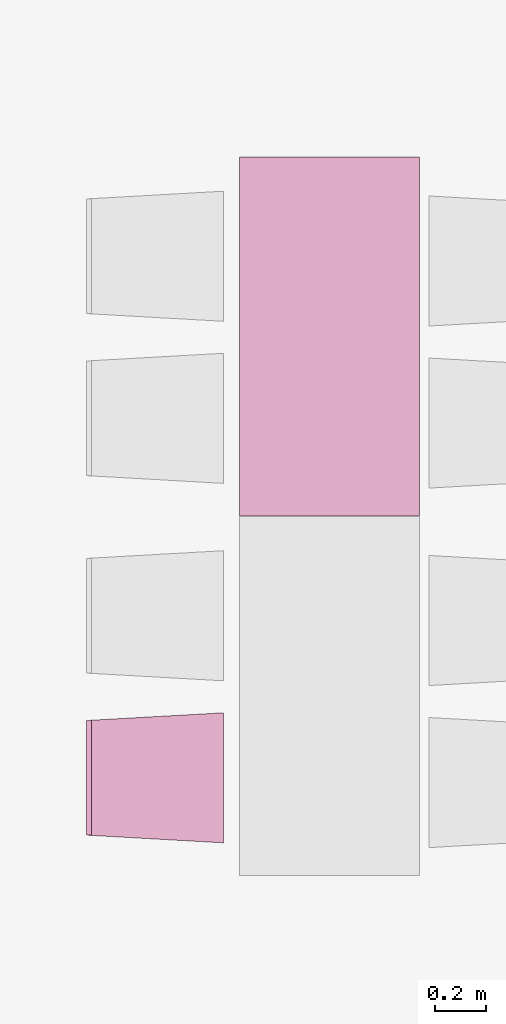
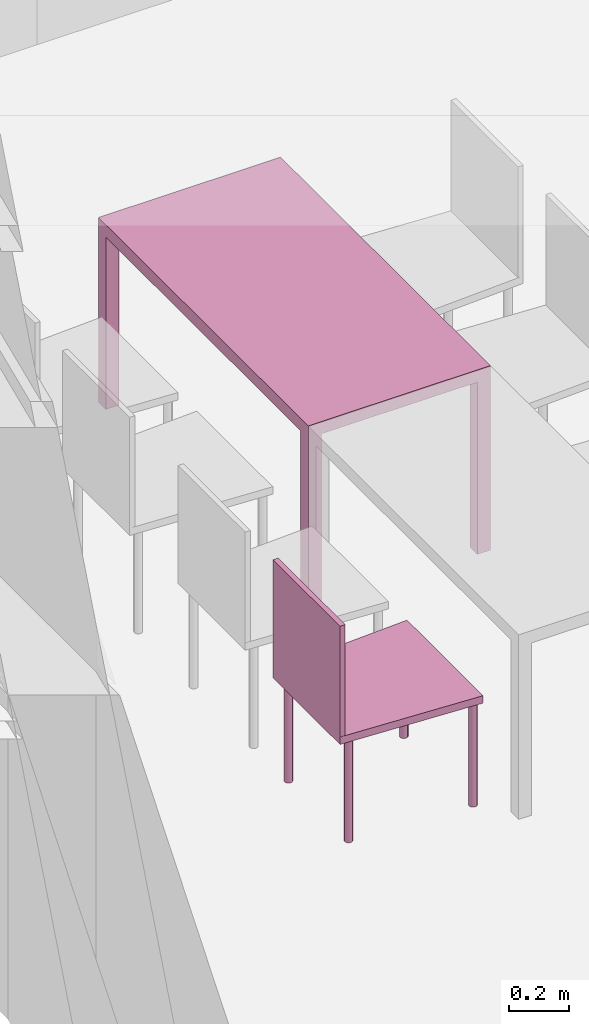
"""IFC4 building model written with IfcOpenShell, lengths in metres."""

import ifcopenshell
import ifcopenshell.guid

model = None  # the IFC model being written
_history = None  # IfcOwnerHistory: only IFC2X3 demands one
_inside = {}  # id of a spatial element -> (the spatial element, [elements in it])
_under = {}  # id of a project, library or spatial element -> (it, [spatial elements below it])
_declared = {}  # id of a project -> (the project, [libraries it declares])
_typed = {}  # id of a type object -> (the type object, [elements of that type])
_made_of = {}  # id of a material, layer set ... -> (it, [elements and type objects made of it])


def new_model(schema):
    """Start an empty IFC model of exactly this schema.

    Asked for "IFC4X3", IfcOpenShell would pick the latest addendum, in which some entities
    have other attributes; the version numbers below select the first issue.
    IFC2X3 requires an IfcOwnerHistory on every rooted entity: one is made here for all.
    """
    global model, _history
    if schema == "IFC4X3":
        model = ifcopenshell.file(schema_version=(4, 3, 0, 0))
    else:
        model = ifcopenshell.file(schema=schema)
    _inside.clear()
    _under.clear()
    _declared.clear()
    _typed.clear()
    _made_of.clear()
    _history = None
    if model.schema == "IFC2X3":
        org = make("IfcOrganization", Name="unknown")
        user = make(
            "IfcPersonAndOrganization",
            ThePerson=make("IfcPerson", FamilyName="unknown"),
            TheOrganization=org,
        )
        app = make(
            "IfcApplication",
            ApplicationDeveloper=org,
            Version="unknown",
            ApplicationFullName="unknown",
            ApplicationIdentifier="unknown",
        )
        _history = make(
            "IfcOwnerHistory",
            OwningUser=user,
            OwningApplication=app,
            ChangeAction="ADDED",
            CreationDate=0,
        )
    return model


def make(cls, **values):
    """One entity of the class cls with the attributes given. An attribute that is None is left unset."""
    return model.create_entity(
        cls, **{name: value for name, value in values.items() if value is not None}
    )


def entity(cls, *values):
    """Any entity or typed value of the class cls, its attributes in the order of the schema. None: left unset."""
    e = model.create_entity(cls)
    for i, value in enumerate(values):
        if value is not None:
            e[i] = value
    return e


def rooted(cls, **values):
    """An entity with a GlobalId (a new one), such as an element, a storey or a relation."""
    return make(cls, GlobalId=ifcopenshell.guid.new(), OwnerHistory=_history, **values)


def si_unit(unit_type, name, prefix=None):
    """IfcSIUnit, for example si_unit("LENGTHUNIT", "METRE", prefix="MILLI")."""
    return make("IfcSIUnit", UnitType=unit_type, Prefix=prefix, Name=name)


def converted_unit(unit_type, name, factor, base, dimensions=None, offset=None):
    """IfcConversionBasedUnit, such as the inch: factor (a typed value) times the base unit."""
    return make(
        "IfcConversionBasedUnit"
        if offset is None
        else "IfcConversionBasedUnitWithOffset",
        ConversionOffset=offset,
        Dimensions=None
        if dimensions is None
        else entity("IfcDimensionalExponents", *dimensions),
        UnitType=unit_type,
        Name=name,
        ConversionFactor=make(
            "IfcMeasureWithUnit", ValueComponent=factor, UnitComponent=base
        ),
    )


def derived_unit(unit_type, elements):
    """IfcDerivedUnit: a product of units, each with its exponent."""
    return make(
        "IfcDerivedUnit",
        Elements=[
            make("IfcDerivedUnitElement", Unit=unit, Exponent=power)
            for unit, power in elements
        ],
        UnitType=unit_type,
    )


def assignment(units):
    """IfcUnitAssignment: the units of a project."""
    return None if units is None else make("IfcUnitAssignment", Units=units)


def point(xyz):
    """IfcCartesianPoint."""
    return None if xyz is None else make("IfcCartesianPoint", Coordinates=xyz)


def direction(xyz):
    """IfcDirection."""
    return None if xyz is None else make("IfcDirection", DirectionRatios=xyz)


def frame(location, z_axis=None, x_axis=None):
    """IfcAxis2Placement3D, a coordinate frame: its origin and axes. An axis left out is left unset."""
    return make(
        "IfcAxis2Placement3D",
        Location=point(location),
        Axis=direction(z_axis),
        RefDirection=direction(x_axis),
    )


def origin():
    """The frame at (0, 0, 0) with its axes left unset."""
    return frame((0.0, 0.0, 0.0))


def place(relative_to, where):
    """IfcLocalPlacement: puts the frame where relative to a parent placement (None: the world)."""
    return make(
        "IfcLocalPlacement", PlacementRelTo=relative_to, RelativePlacement=where
    )


def context(
    kind, dimensions, precision=None, world=None, true_north=None, identifier=None
):
    """IfcGeometricRepresentationContext, for example the 3D "Model" context."""
    return make(
        "IfcGeometricRepresentationContext",
        ContextIdentifier=identifier,
        ContextType=kind,
        CoordinateSpaceDimension=dimensions,
        Precision=precision,
        WorldCoordinateSystem=world,
        TrueNorth=true_north,
    )


def subcontext(parent, identifier, kind, view, scale=None):
    """IfcGeometricRepresentationSubContext, for example "Body" below "Model"."""
    return make(
        "IfcGeometricRepresentationSubContext",
        ContextIdentifier=identifier,
        ContextType=kind,
        ParentContext=parent,
        TargetScale=scale,
        TargetView=view,
    )


def project(units=None, contexts=None):
    """IfcProject with its units and contexts."""
    return rooted(
        "IfcProject",
        Name="project",
        RepresentationContexts=contexts,
        UnitsInContext=assignment(units),
    )


def spatial(cls, under=None, at=None, **own):
    """A site, building, storey or space (cls), placed at a placement, below another one or the project."""
    s = rooted(cls, ObjectPlacement=at, **own)
    if under is not None:
        _under.setdefault(under.id(), (under, []))[1].append(s)
    return s


def faces_of(points, faces, orient=None, outer=None):
    """IfcFace entities. A face is a list of loops; a loop is a list of indices into points, from 0.

    orient and outer hold one flag for each loop. By default every Orientation is true, the
    first loop of a face is its IfcFaceOuterBound and the others are IfcFaceBound.
    """
    made = []
    for i, loops in enumerate(faces):
        bounds = []
        for j, loop in enumerate(loops):
            is_outer = j == 0 if outer is None else outer[i][j]
            bounds.append(
                make(
                    "IfcFaceOuterBound" if is_outer else "IfcFaceBound",
                    Bound=make("IfcPolyLoop", Polygon=[points[k] for k in loop]),
                    Orientation=True if orient is None else orient[i][j],
                )
            )
        made.append(make("IfcFace", Bounds=bounds))
    return made


def faceted_brep(points, faces, orient=None, outer=None, voids=None):
    """IfcFacetedBrep: a solid bounded by flat faces; with voids (closed shells), ...WithVoids."""
    shared = [point(p) for p in points]
    hull = make("IfcClosedShell", CfsFaces=faces_of(shared, faces, orient, outer))
    if voids is None:
        return make("IfcFacetedBrep", Outer=hull)
    return make(
        "IfcFacetedBrepWithVoids",
        Outer=hull,
        Voids=[
            make(cls, CfsFaces=faces_of(shared, fs, o, b)) for cls, fs, o, b in voids
        ],
    )


def shape(context_of_items, identifier, shape_type, items):
    """IfcShapeRepresentation: the items that make up one representation, for example the "Body"."""
    return make(
        "IfcShapeRepresentation",
        ContextOfItems=context_of_items,
        RepresentationIdentifier=identifier,
        RepresentationType=shape_type,
        Items=items,
    )


def made_of(thing, what):
    """Note that an element or type object is made of a material, layer set ...; save() writes the relation."""
    if what is not None:
        _made_of.setdefault(what.id(), (what, []))[1].append(thing)
    return thing


def element(
    cls,
    number,
    at=None,
    inside=None,
    cuts=None,
    type_object=None,
    material=None,
    context=None,
    identifier="Body",
    shape_type=None,
    held_by="IfcProductDefinitionShape",
    body=None,
    shapes=None,
    **own,
):
    """One element of the class cls, such as IfcWall. Its Tag is "e" and its number.

    at: its placement. inside: the storey or other place that contains it. cuts: it is an
    opening in that element (IfcRelVoidsElement). A single representation is given by context,
    identifier, shape_type and body (its items); several are given by shapes. held_by: the class
    of the entity that holds the representations. save() writes the other relations.
    """
    e = rooted(cls, Tag="e%d" % number, ObjectPlacement=at, **own)
    if body is not None:
        shapes = [shape(context, identifier, shape_type, body)]
    if shapes is not None:
        e.Representation = make(held_by, Representations=shapes)
    if inside is not None:
        _inside.setdefault(inside.id(), (inside, []))[1].append(e)
    if cuts is not None:
        rooted(
            "IfcRelVoidsElement", RelatingBuildingElement=cuts, RelatedOpeningElement=e
        )
    if type_object is not None:
        _typed.setdefault(type_object.id(), (type_object, []))[1].append(e)
    return made_of(e, material)


def aggregate(whole, parts):
    """IfcRelAggregates: a whole, such as a stair, and the parts it consists of."""
    return rooted("IfcRelAggregates", RelatingObject=whole, RelatedObjects=parts)


def save(model, path):
    """Write the relations noted so far, then the file.

    IfcRelAggregates (storeys below a building ...), IfcRelContainedInSpatialStructure (elements
    in a storey), IfcRelDefinesByType, IfcRelAssociatesMaterial and IfcRelDeclares: one each for
    every whole, place, type object, material and project.
    """
    for whole, parts in _under.values():
        aggregate(whole, parts)
    for where, things in _inside.values():
        rooted(
            "IfcRelContainedInSpatialStructure",
            RelatedElements=things,
            RelatingStructure=where,
        )
    for kind, things in _typed.values():
        rooted("IfcRelDefinesByType", RelatedObjects=things, RelatingType=kind)
    for what, things in _made_of.values():
        rooted("IfcRelAssociatesMaterial", RelatedObjects=things, RelatingMaterial=what)
    for by, libraries in _declared.values():
        rooted("IfcRelDeclares", RelatingContext=by, RelatedDefinitions=libraries)
    model.write(path)


model = new_model("IFC4")

# Units and contexts
model_context = context("Model", 3, precision=1e-05, world=origin())
body_context = subcontext(model_context, "Body", "Model", "MODEL_VIEW")
ifc_project = project(units=[si_unit("LENGTHUNIT", "METRE"), si_unit("AREAUNIT", "SQUARE_METRE"), si_unit("VOLUMEUNIT", "CUBIC_METRE"), si_unit("MASSUNIT", "GRAM", prefix="KILO"), converted_unit("PLANEANGLEUNIT", "DEGREE", entity("IfcPlaneAngleMeasure", 0.0174532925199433), si_unit("PLANEANGLEUNIT", "RADIAN"), dimensions=[0, 0, 0, 0, 0, 0, 0]), derived_unit("THERMALTRANSMITTANCEUNIT", [(si_unit("POWERUNIT", "WATT"), 1), (si_unit("THERMODYNAMICTEMPERATUREUNIT", "KELVIN"), -1), (si_unit("LENGTHUNIT", "METRE"), -2)]), derived_unit("VOLUMETRICFLOWRATEUNIT", [(si_unit("LENGTHUNIT", "METRE"), 3), (converted_unit("TIMEUNIT", "hour", entity("IfcTimeMeasure", 3600.0), si_unit("TIMEUNIT", "SECOND"), dimensions=[0, 0, 1, 0, 0, 0, 0]), -1), (si_unit("LENGTHUNIT", "METRE"), -1)])], contexts=[model_context])

# Building, storeys
building_placement = place(None, origin())
building = spatial("IfcBuilding", under=ifc_project, at=building_placement, Name="HABITATGE PLURIFAMILIAR", CompositionType="ELEMENT")
storey_1_placement = place(building_placement, frame((0.0, 0.0, 3.35)))
storey_1 = spatial("IfcBuildingStorey", under=building, at=storey_1_placement, Name="PLANTA  ALTELL", CompositionType="ELEMENT", Elevation=3.35)
storey_2_placement = place(storey_1_placement, origin())
storey_2 = spatial("IfcBuildingStorey", under=storey_1, at=storey_2_placement, Name="NOU", CompositionType="PARTIAL")

# Furniture
furniture_1_placement = place(storey_2_placement, frame((400.801918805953, 20.1226455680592, 0.05)))
element("IfcFurniture", 1, at=furniture_1_placement, inside=storey_2, Name="Taula 140X80_PA", context=body_context, shape_type="Brep", body=[
    faceted_brep([(0.7, 0.0500000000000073, 0.0), (0.65, 0.0500000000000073, 0.0), (0.65, 0.0, 0.0), (0.7, 0.0, 0.0), (0.65, 0.0500000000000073, 0.7), (0.7, 0.0500000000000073, 0.7), (0.7, 0.0, 0.7), (0.65, 0.0, 0.7)], [[[0, 1, 2, 3]], [[4, 5, 6, 7]], [[1, 0, 5, 4]], [[2, 1, 4, 7]], [[3, 2, 7, 6]], [[0, 3, 6, 5]]], orient=[[False], [False], [False], [False], [False], [False]]),
    faceted_brep([(0.7, 1.39694592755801, 0.0), (0.65, 1.39694592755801, 0.0), (0.65, 1.34694592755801, 0.0), (0.7, 1.34694592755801, 0.0), (0.65, 1.39694592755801, 0.7), (0.7, 1.39694592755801, 0.7), (0.7, 1.34694592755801, 0.7), (0.65, 1.34694592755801, 0.7)], [[[0, 1, 2, 3]], [[4, 5, 6, 7]], [[1, 0, 5, 4]], [[2, 1, 4, 7]], [[3, 2, 7, 6]], [[0, 3, 6, 5]]], orient=[[False], [False], [False], [False], [False], [False]]),
    faceted_brep([(0.7, 1.396945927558, 0.7), (0.0, 1.396945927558, 0.7), (0.0, 0.0, 0.7), (0.7, 0.0, 0.7), (0.0, 1.396945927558, 0.75), (0.7, 1.396945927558, 0.75), (0.7, 0.0, 0.75), (0.0, 0.0, 0.75)], [[[0, 1, 2, 3]], [[4, 5, 6, 7]], [[1, 0, 5, 4]], [[2, 1, 4, 7]], [[3, 2, 7, 6]], [[0, 3, 6, 5]]], orient=[[False], [False], [False], [False], [False], [False]]),
    faceted_brep([(0.05, 0.05, 0.0), (0.0, 0.05, 0.0), (0.0, 0.0, 0.0), (0.05, 0.0, 0.0), (0.0, 0.05, 0.7), (0.05, 0.05, 0.7), (0.05, 0.0, 0.7), (0.0, 0.0, 0.7)], [[[0, 1, 2, 3]], [[4, 5, 6, 7]], [[1, 0, 5, 4]], [[2, 1, 4, 7]], [[3, 2, 7, 6]], [[0, 3, 6, 5]]], orient=[[False], [False], [False], [False], [False], [False]]),
    faceted_brep([(0.05, 1.396945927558, 0.0), (0.0, 1.396945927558, 0.0), (0.0, 1.346945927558, 0.0), (0.05, 1.346945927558, 0.0), (0.0, 1.396945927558, 0.7), (0.05, 1.396945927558, 0.7), (0.05, 1.346945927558, 0.7), (0.0, 1.346945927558, 0.7)], [[[0, 1, 2, 3]], [[4, 5, 6, 7]], [[1, 0, 5, 4]], [[2, 1, 4, 7]], [[3, 2, 7, 6]], [[0, 3, 6, 5]]], orient=[[False], [False], [False], [False], [False], [False]]),
])
furniture_2_placement = place(storey_2_placement, frame((400.206206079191, 18.8492329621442, 0.0499839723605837)))
element("IfcFurniture", 2, at=furniture_2_placement, inside=storey_2, Name="Cadira confident_PA", context=body_context, shape_type="Brep", body=[
    faceted_brep([(0.507575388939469, 0.0391636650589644, 0.0), (0.504980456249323, 0.0389479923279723, 0.0), (0.502462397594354, 0.0382849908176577, 0.0), (0.500097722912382, 0.0371948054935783, 0.0), (0.497958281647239, 0.0357105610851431, 0.0), (0.496109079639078, 0.0338773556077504, 0.0), (0.494606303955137, 0.0317508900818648, 0.0), (0.493495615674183, 0.0293957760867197, 0.0), (0.492810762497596, 0.0268835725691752, 0.0), (0.492572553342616, 0.0242906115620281, 0.0), (0.492788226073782, 0.0216956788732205, 0.0), (0.493451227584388, 0.019177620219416, 0.0), (0.494541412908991, 0.0168129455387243, 0.0), (0.496025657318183, 0.0146735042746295, 0.0), (0.497858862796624, 0.0128243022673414, 0.0), (0.499985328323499, 0.0113215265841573, 0.0), (0.502340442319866, 0.0102108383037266, 0.0), (0.504852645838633, 0.00952598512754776, 0.0), (0.507445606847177, 0.00928777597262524, 0.0), (0.510040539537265, 0.00950344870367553, 0.0), (0.512558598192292, 0.010166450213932, 0.0), (0.514923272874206, 0.0112566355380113, 0.0), (0.517062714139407, 0.0127408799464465, 0.0), (0.518911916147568, 0.0145740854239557, 0.0), (0.520414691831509, 0.0167005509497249, 0.0), (0.521525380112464, 0.0190556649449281, 0.0), (0.52221023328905, 0.0215678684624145, 0.0), (0.522448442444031, 0.0241608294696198, 0.0), (0.522232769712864, 0.0267557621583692, 0.0), (0.521569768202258, 0.0292738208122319, 0.0), (0.520479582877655, 0.0316384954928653, 0.0), (0.518995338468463, 0.0337779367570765, 0.0), (0.517162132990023, 0.0356271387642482, 0.0), (0.515035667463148, 0.0371299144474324, 0.0), (0.51268055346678, 0.038240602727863, 0.0), (0.510168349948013, 0.0389254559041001, 0.0), (0.507575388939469, 0.0391636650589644, 0.448281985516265), (0.510168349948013, 0.0389254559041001, 0.448281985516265), (0.51268055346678, 0.038240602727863, 0.448281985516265), (0.515035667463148, 0.0371299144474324, 0.448281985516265), (0.517162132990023, 0.0356271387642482, 0.448281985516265), (0.518995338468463, 0.0337779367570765, 0.448281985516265), (0.520479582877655, 0.0316384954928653, 0.448281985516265), (0.521569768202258, 0.0292738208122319, 0.448281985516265), (0.522232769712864, 0.0267557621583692, 0.448281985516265), (0.522448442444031, 0.0241608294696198, 0.448281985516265), (0.52221023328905, 0.0215678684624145, 0.448281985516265), (0.521525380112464, 0.0190556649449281, 0.448281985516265), (0.520414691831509, 0.0167005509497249, 0.448281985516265), (0.518911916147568, 0.0145740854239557, 0.448281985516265), (0.517062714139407, 0.0127408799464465, 0.448281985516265), (0.514923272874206, 0.0112566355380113, 0.448281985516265), (0.512558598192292, 0.010166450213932, 0.448281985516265), (0.510040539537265, 0.00950344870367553, 0.448281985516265), (0.507445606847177, 0.00928777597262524, 0.448281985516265), (0.504852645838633, 0.00952598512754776, 0.448281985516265), (0.502340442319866, 0.0102108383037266, 0.448281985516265), (0.499985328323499, 0.0113215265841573, 0.448281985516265), (0.497858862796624, 0.0128243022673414, 0.448281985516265), (0.496025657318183, 0.0146735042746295, 0.448281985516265), (0.494541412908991, 0.0168129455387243, 0.448281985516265), (0.493451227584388, 0.019177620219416, 0.448281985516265), (0.492788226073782, 0.0216956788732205, 0.448281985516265), (0.492572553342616, 0.0242906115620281, 0.448281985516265), (0.492810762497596, 0.0268835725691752, 0.448281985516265), (0.493495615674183, 0.0293957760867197, 0.448281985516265), (0.494606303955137, 0.0317508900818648, 0.448281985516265), (0.496109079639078, 0.0338773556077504, 0.448281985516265), (0.497958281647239, 0.0357105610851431, 0.448281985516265), (0.500097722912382, 0.0371948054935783, 0.448281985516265), (0.502462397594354, 0.0382849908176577, 0.448281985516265), (0.504980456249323, 0.0389479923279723, 0.448281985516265)], [[[0, 1, 2, 3, 4, 5, 6, 7, 8, 9, 10, 11, 12, 13, 14, 15, 16, 17, 18, 19, 20, 21, 22, 23, 24, 25, 26, 27, 28, 29, 30, 31, 32, 33, 34, 35]], [[36, 37, 38, 39, 40, 41, 42, 43, 44, 45, 46, 47, 48, 49, 50, 51, 52, 53, 54, 55, 56, 57, 58, 59, 60, 61, 62, 63, 64, 65, 66, 67, 68, 69, 70, 71]], [[1, 0, 36, 71]], [[2, 1, 71, 70]], [[3, 2, 70, 69]], [[4, 3, 69, 68]], [[5, 4, 68, 67]], [[6, 5, 67, 66]], [[7, 6, 66, 65]], [[8, 7, 65, 64]], [[9, 8, 64, 63]], [[10, 9, 63, 62]], [[11, 10, 62, 61]], [[12, 11, 61, 60]], [[13, 12, 60, 59]], [[14, 13, 59, 58]], [[15, 14, 58, 57]], [[16, 15, 57, 56]], [[17, 16, 56, 55]], [[18, 17, 55, 54]], [[19, 18, 54, 53]], [[20, 19, 53, 52]], [[21, 20, 52, 51]], [[22, 21, 51, 50]], [[23, 22, 50, 49]], [[24, 23, 49, 48]], [[25, 24, 48, 47]], [[26, 25, 47, 46]], [[27, 26, 46, 45]], [[28, 27, 45, 44]], [[29, 28, 44, 43]], [[30, 29, 43, 42]], [[31, 30, 42, 41]], [[32, 31, 41, 40]], [[33, 32, 40, 39]], [[34, 33, 39, 38]], [[35, 34, 38, 37]], [[0, 35, 37, 36]]], orient=[[False], [False], [False], [False], [False], [False], [False], [False], [False], [False], [False], [False], [False], [False], [False], [False], [False], [False], [False], [False], [False], [False], [False], [False], [False], [False], [False], [False], [False], [False], [False], [False], [False], [False], [False], [False], [False], [False]]),
    faceted_brep([(0.0451683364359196, 0.0668016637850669, 0.0), (0.0425734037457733, 0.0665859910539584, 0.0), (0.0400553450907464, 0.065922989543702, 0.0), (0.0376906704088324, 0.0648328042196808, 0.0), (0.0355512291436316, 0.0633485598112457, 0.0), (0.0337020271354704, 0.0615153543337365, 0.0), (0.0321992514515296, 0.0593888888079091, 0.0), (0.0310885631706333, 0.057033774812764, 0.0), (0.0304037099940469, 0.0545215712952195, 0.0), (0.030165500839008, 0.0519286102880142, 0.0), (0.0303811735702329, 0.0493336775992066, 0.0), (0.0310441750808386, 0.0468156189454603, 0.0), (0.0321343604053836, 0.0444509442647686, 0.0), (0.0336186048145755, 0.0423115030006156, 0.0), (0.035451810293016, 0.0404623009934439, 0.0), (0.0375782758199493, 0.0389595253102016, 0.0), (0.0399333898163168, 0.0378488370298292, 0.0), (0.0424455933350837, 0.0371639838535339, 0.0), (0.0450385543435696, 0.0369257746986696, 0.0), (0.0476334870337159, 0.0371414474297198, 0.0), (0.0501515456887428, 0.0378044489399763, 0.0), (0.0525162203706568, 0.0388946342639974, 0.0), (0.0546556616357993, 0.0403788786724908, 0.0), (0.0565048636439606, 0.0422120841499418, 0.0), (0.0580076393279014, 0.0443385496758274, 0.0), (0.0591183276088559, 0.0466936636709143, 0.0), (0.0598031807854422, 0.0492058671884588, 0.0), (0.060041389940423, 0.0517988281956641, 0.0), (0.0598257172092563, 0.0543937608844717, 0.0), (0.0591627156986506, 0.056911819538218, 0.0), (0.0580725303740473, 0.0592764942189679, 0.0), (0.0565882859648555, 0.0614159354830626, 0.0), (0.054755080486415, 0.0632651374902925, 0.0), (0.0526286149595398, 0.0647679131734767, 0.0), (0.0502735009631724, 0.0658786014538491, 0.0), (0.0477612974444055, 0.0665634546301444, 0.0), (0.0451683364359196, 0.0668016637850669, 0.448281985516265), (0.0477612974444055, 0.0665634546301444, 0.448281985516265), (0.0502735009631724, 0.0658786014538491, 0.448281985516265), (0.0526286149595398, 0.0647679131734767, 0.448281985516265), (0.054755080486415, 0.0632651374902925, 0.448281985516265), (0.0565882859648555, 0.0614159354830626, 0.448281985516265), (0.0580725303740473, 0.0592764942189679, 0.448281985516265), (0.0591627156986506, 0.056911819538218, 0.448281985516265), (0.0598257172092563, 0.0543937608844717, 0.448281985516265), (0.060041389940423, 0.0517988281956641, 0.448281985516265), (0.0598031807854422, 0.0492058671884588, 0.448281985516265), (0.0591183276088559, 0.0466936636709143, 0.448281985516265), (0.0580076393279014, 0.0443385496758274, 0.448281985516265), (0.0565048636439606, 0.0422120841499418, 0.448281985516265), (0.0546556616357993, 0.0403788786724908, 0.448281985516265), (0.0525162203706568, 0.0388946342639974, 0.448281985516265), (0.0501515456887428, 0.0378044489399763, 0.448281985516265), (0.0476334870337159, 0.0371414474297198, 0.448281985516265), (0.0450385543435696, 0.0369257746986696, 0.448281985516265), (0.0424455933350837, 0.0371639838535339, 0.448281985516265), (0.0399333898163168, 0.0378488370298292, 0.448281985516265), (0.0375782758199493, 0.0389595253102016, 0.448281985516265), (0.035451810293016, 0.0404623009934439, 0.448281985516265), (0.0336186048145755, 0.0423115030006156, 0.448281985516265), (0.0321343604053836, 0.0444509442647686, 0.448281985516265), (0.0310441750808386, 0.0468156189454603, 0.448281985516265), (0.0303811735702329, 0.0493336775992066, 0.448281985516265), (0.030165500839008, 0.0519286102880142, 0.448281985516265), (0.0304037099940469, 0.0545215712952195, 0.448281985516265), (0.0310885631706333, 0.057033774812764, 0.448281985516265), (0.0321992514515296, 0.0593888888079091, 0.448281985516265), (0.0337020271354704, 0.0615153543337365, 0.448281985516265), (0.0355512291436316, 0.0633485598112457, 0.448281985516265), (0.0376906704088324, 0.0648328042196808, 0.448281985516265), (0.0400553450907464, 0.065922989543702, 0.448281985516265), (0.0425734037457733, 0.0665859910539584, 0.448281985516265)], [[[0, 1, 2, 3, 4, 5, 6, 7, 8, 9, 10, 11, 12, 13, 14, 15, 16, 17, 18, 19, 20, 21, 22, 23, 24, 25, 26, 27, 28, 29, 30, 31, 32, 33, 34, 35]], [[36, 37, 38, 39, 40, 41, 42, 43, 44, 45, 46, 47, 48, 49, 50, 51, 52, 53, 54, 55, 56, 57, 58, 59, 60, 61, 62, 63, 64, 65, 66, 67, 68, 69, 70, 71]], [[1, 0, 36, 71]], [[2, 1, 71, 70]], [[3, 2, 70, 69]], [[4, 3, 69, 68]], [[5, 4, 68, 67]], [[6, 5, 67, 66]], [[7, 6, 66, 65]], [[8, 7, 65, 64]], [[9, 8, 64, 63]], [[10, 9, 63, 62]], [[11, 10, 62, 61]], [[12, 11, 61, 60]], [[13, 12, 60, 59]], [[14, 13, 59, 58]], [[15, 14, 58, 57]], [[16, 15, 57, 56]], [[17, 16, 56, 55]], [[18, 17, 55, 54]], [[19, 18, 54, 53]], [[20, 19, 53, 52]], [[21, 20, 52, 51]], [[22, 21, 51, 50]], [[23, 22, 50, 49]], [[24, 23, 49, 48]], [[25, 24, 48, 47]], [[26, 25, 47, 46]], [[27, 26, 46, 45]], [[28, 27, 45, 44]], [[29, 28, 44, 43]], [[30, 29, 43, 42]], [[31, 30, 42, 41]], [[32, 31, 41, 40]], [[33, 32, 40, 39]], [[34, 33, 39, 38]], [[35, 34, 38, 37]], [[0, 35, 37, 36]]], orient=[[False], [False], [False], [False], [False], [False], [False], [False], [False], [False], [False], [False], [False], [False], [False], [False], [False], [False], [False], [False], [False], [False], [False], [False], [False], [False], [False], [False], [False], [False], [False], [False], [False], [False], [False], [False], [False], [False]]),
    faceted_brep([(0.50757538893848, 0.499163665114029, 0.0), (0.504980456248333, 0.49894799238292, 0.0), (0.502462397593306, 0.498284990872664, 0.0), (0.500097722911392, 0.497194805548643, 0.0), (0.49795828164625, 0.495710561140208, 0.0), (0.49610907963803, 0.493877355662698, 0.0), (0.494606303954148, 0.491750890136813, 0.0), (0.493495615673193, 0.489395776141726, 0.0), (0.492810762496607, 0.486883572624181, 0.0), (0.492572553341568, 0.484290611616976, 0.0), (0.492788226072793, 0.481695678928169, 0.0), (0.493451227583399, 0.479177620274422, 0.0), (0.494541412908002, 0.476812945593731, 0.0), (0.496025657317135, 0.474673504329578, 0.0), (0.497858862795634, 0.472824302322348, 0.0), (0.499985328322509, 0.471321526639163, 0.0), (0.502340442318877, 0.470210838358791, 0.0), (0.504852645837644, 0.469525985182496, 0.0), (0.507445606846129, 0.469287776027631, 0.0), (0.510040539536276, 0.469503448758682, 0.0), (0.512558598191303, 0.470166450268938, 0.0), (0.514923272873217, 0.471256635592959, 0.0), (0.517062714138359, 0.472740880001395, 0.0), (0.518911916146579, 0.474574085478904, 0.0), (0.520414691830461, 0.476700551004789, 0.0), (0.521525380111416, 0.479055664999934, 0.0), (0.522210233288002, 0.481567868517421, 0.0), (0.522448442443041, 0.484160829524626, 0.0), (0.522232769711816, 0.486755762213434, 0.0), (0.521569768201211, 0.489273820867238, 0.0), (0.520479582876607, 0.491638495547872, 0.0), (0.518995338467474, 0.493777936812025, 0.0), (0.517162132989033, 0.495627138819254, 0.0), (0.5150356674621, 0.497129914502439, 0.0), (0.512680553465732, 0.498240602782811, 0.0), (0.510168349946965, 0.498925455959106, 0.0), (0.50757538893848, 0.499163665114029, 0.448281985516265), (0.510168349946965, 0.498925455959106, 0.448281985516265), (0.512680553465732, 0.498240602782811, 0.448281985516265), (0.5150356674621, 0.497129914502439, 0.448281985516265), (0.517162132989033, 0.495627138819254, 0.448281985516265), (0.518995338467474, 0.493777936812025, 0.448281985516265), (0.520479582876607, 0.491638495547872, 0.448281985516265), (0.521569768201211, 0.489273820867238, 0.448281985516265), (0.522232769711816, 0.486755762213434, 0.448281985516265), (0.522448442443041, 0.484160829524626, 0.448281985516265), (0.522210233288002, 0.481567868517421, 0.448281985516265), (0.521525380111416, 0.479055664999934, 0.448281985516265), (0.520414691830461, 0.476700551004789, 0.448281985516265), (0.518911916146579, 0.474574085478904, 0.448281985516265), (0.517062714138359, 0.472740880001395, 0.448281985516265), (0.514923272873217, 0.471256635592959, 0.448281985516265), (0.512558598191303, 0.470166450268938, 0.448281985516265), (0.510040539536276, 0.469503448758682, 0.448281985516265), (0.507445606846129, 0.469287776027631, 0.448281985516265), (0.504852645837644, 0.469525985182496, 0.448281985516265), (0.502340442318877, 0.470210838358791, 0.448281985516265), (0.499985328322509, 0.471321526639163, 0.448281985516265), (0.497858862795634, 0.472824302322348, 0.448281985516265), (0.496025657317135, 0.474673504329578, 0.448281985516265), (0.494541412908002, 0.476812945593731, 0.448281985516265), (0.493451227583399, 0.479177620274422, 0.448281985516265), (0.492788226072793, 0.481695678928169, 0.448281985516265), (0.492572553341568, 0.484290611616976, 0.448281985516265), (0.492810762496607, 0.486883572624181, 0.448281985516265), (0.493495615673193, 0.489395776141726, 0.448281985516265), (0.494606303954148, 0.491750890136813, 0.448281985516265), (0.49610907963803, 0.493877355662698, 0.448281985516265), (0.49795828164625, 0.495710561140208, 0.448281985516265), (0.500097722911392, 0.497194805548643, 0.448281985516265), (0.502462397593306, 0.498284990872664, 0.448281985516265), (0.504980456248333, 0.49894799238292, 0.448281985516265)], [[[0, 1, 2, 3, 4, 5, 6, 7, 8, 9, 10, 11, 12, 13, 14, 15, 16, 17, 18, 19, 20, 21, 22, 23, 24, 25, 26, 27, 28, 29, 30, 31, 32, 33, 34, 35]], [[36, 37, 38, 39, 40, 41, 42, 43, 44, 45, 46, 47, 48, 49, 50, 51, 52, 53, 54, 55, 56, 57, 58, 59, 60, 61, 62, 63, 64, 65, 66, 67, 68, 69, 70, 71]], [[1, 0, 36, 71]], [[2, 1, 71, 70]], [[3, 2, 70, 69]], [[4, 3, 69, 68]], [[5, 4, 68, 67]], [[6, 5, 67, 66]], [[7, 6, 66, 65]], [[8, 7, 65, 64]], [[9, 8, 64, 63]], [[10, 9, 63, 62]], [[11, 10, 62, 61]], [[12, 11, 61, 60]], [[13, 12, 60, 59]], [[14, 13, 59, 58]], [[15, 14, 58, 57]], [[16, 15, 57, 56]], [[17, 16, 56, 55]], [[18, 17, 55, 54]], [[19, 18, 54, 53]], [[20, 19, 53, 52]], [[21, 20, 52, 51]], [[22, 21, 51, 50]], [[23, 22, 50, 49]], [[24, 23, 49, 48]], [[25, 24, 48, 47]], [[26, 25, 47, 46]], [[27, 26, 46, 45]], [[28, 27, 45, 44]], [[29, 28, 44, 43]], [[30, 29, 43, 42]], [[31, 30, 42, 41]], [[32, 31, 41, 40]], [[33, 32, 40, 39]], [[34, 33, 39, 38]], [[35, 34, 38, 37]], [[0, 35, 37, 36]]], orient=[[False], [False], [False], [False], [False], [False], [False], [False], [False], [False], [False], [False], [False], [False], [False], [False], [False], [False], [False], [False], [False], [False], [False], [False], [False], [False], [False], [False], [False], [False], [False], [False], [False], [False], [False], [False], [False], [False]]),
    faceted_brep([(0.0451683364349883, 0.466801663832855, 0.0), (0.0425734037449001, 0.466585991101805, 0.0), (0.0400553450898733, 0.465922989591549, 0.0), (0.0376906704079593, 0.464832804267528, 0.0), (0.0355512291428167, 0.463348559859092, 0.0), (0.0337020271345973, 0.461515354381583, 0.0), (0.0321992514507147, 0.459388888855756, 0.0), (0.0310885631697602, 0.457033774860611, 0.0), (0.0304037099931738, 0.454521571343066, 0.0), (0.0301655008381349, 0.451928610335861, 0.0), (0.0303811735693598, 0.449333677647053, 0.0), (0.0310441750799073, 0.446815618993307, 0.0), (0.0321343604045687, 0.444450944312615, 0.0), (0.0336186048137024, 0.442311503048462, 0.0), (0.0354518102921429, 0.440462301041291, 0.0), (0.0375782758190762, 0.438959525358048, 0.0), (0.0399333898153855, 0.437848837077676, 0.0), (0.0424455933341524, 0.437163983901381, 0.0), (0.0450385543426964, 0.436925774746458, 0.0), (0.0476334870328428, 0.437141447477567, 0.0), (0.0501515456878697, 0.437804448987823, 0.0), (0.0525162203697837, 0.438894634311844, 0.0), (0.0546556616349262, 0.440378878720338, 0.0), (0.0565048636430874, 0.442212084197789, 0.0), (0.0580076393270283, 0.444338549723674, 0.0), (0.0591183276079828, 0.446693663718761, 0.0), (0.0598031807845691, 0.449205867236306, 0.0), (0.0600413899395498, 0.451798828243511, 0.0), (0.0598257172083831, 0.454393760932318, 0.0), (0.0591627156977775, 0.456911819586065, 0.0), (0.0580725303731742, 0.459276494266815, 0.0), (0.0565882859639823, 0.461415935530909, 0.0), (0.0547550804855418, 0.463265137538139, 0.0), (0.0526286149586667, 0.464767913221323, 0.0), (0.0502735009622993, 0.465878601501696, 0.0), (0.0477612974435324, 0.466563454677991, 0.0), (0.0451683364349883, 0.466801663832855, 0.448281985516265), (0.0477612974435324, 0.466563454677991, 0.448281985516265), (0.0502735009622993, 0.465878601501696, 0.448281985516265), (0.0526286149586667, 0.464767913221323, 0.448281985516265), (0.0547550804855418, 0.463265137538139, 0.448281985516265), (0.0565882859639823, 0.461415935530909, 0.448281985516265), (0.0580725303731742, 0.459276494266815, 0.448281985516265), (0.0591627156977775, 0.456911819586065, 0.448281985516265), (0.0598257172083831, 0.454393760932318, 0.448281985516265), (0.0600413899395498, 0.451798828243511, 0.448281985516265), (0.0598031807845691, 0.449205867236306, 0.448281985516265), (0.0591183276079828, 0.446693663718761, 0.448281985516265), (0.0580076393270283, 0.444338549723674, 0.448281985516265), (0.0565048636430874, 0.442212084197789, 0.448281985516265), (0.0546556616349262, 0.440378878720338, 0.448281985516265), (0.0525162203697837, 0.438894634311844, 0.448281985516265), (0.0501515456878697, 0.437804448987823, 0.448281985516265), (0.0476334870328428, 0.437141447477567, 0.448281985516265), (0.0450385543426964, 0.436925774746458, 0.448281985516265), (0.0424455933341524, 0.437163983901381, 0.448281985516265), (0.0399333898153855, 0.437848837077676, 0.448281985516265), (0.0375782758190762, 0.438959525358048, 0.448281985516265), (0.0354518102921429, 0.440462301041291, 0.448281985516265), (0.0336186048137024, 0.442311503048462, 0.448281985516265), (0.0321343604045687, 0.444450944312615, 0.448281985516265), (0.0310441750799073, 0.446815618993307, 0.448281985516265), (0.0303811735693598, 0.449333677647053, 0.448281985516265), (0.0301655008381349, 0.451928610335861, 0.448281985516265), (0.0304037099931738, 0.454521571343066, 0.448281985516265), (0.0310885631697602, 0.457033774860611, 0.448281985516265), (0.0321992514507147, 0.459388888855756, 0.448281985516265), (0.0337020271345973, 0.461515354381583, 0.448281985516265), (0.0355512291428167, 0.463348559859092, 0.448281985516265), (0.0376906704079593, 0.464832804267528, 0.448281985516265), (0.0400553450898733, 0.465922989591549, 0.448281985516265), (0.0425734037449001, 0.466585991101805, 0.448281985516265)], [[[0, 1, 2, 3, 4, 5, 6, 7, 8, 9, 10, 11, 12, 13, 14, 15, 16, 17, 18, 19, 20, 21, 22, 23, 24, 25, 26, 27, 28, 29, 30, 31, 32, 33, 34, 35]], [[36, 37, 38, 39, 40, 41, 42, 43, 44, 45, 46, 47, 48, 49, 50, 51, 52, 53, 54, 55, 56, 57, 58, 59, 60, 61, 62, 63, 64, 65, 66, 67, 68, 69, 70, 71]], [[1, 0, 36, 71]], [[2, 1, 71, 70]], [[3, 2, 70, 69]], [[4, 3, 69, 68]], [[5, 4, 68, 67]], [[6, 5, 67, 66]], [[7, 6, 66, 65]], [[8, 7, 65, 64]], [[9, 8, 64, 63]], [[10, 9, 63, 62]], [[11, 10, 62, 61]], [[12, 11, 61, 60]], [[13, 12, 60, 59]], [[14, 13, 59, 58]], [[15, 14, 58, 57]], [[16, 15, 57, 56]], [[17, 16, 56, 55]], [[18, 17, 55, 54]], [[19, 18, 54, 53]], [[20, 19, 53, 52]], [[21, 20, 52, 51]], [[22, 21, 51, 50]], [[23, 22, 50, 49]], [[24, 23, 49, 48]], [[25, 24, 48, 47]], [[26, 25, 47, 46]], [[27, 26, 46, 45]], [[28, 27, 45, 44]], [[29, 28, 44, 43]], [[30, 29, 43, 42]], [[31, 30, 42, 41]], [[32, 31, 41, 40]], [[33, 32, 40, 39]], [[34, 33, 39, 38]], [[35, 34, 38, 37]], [[0, 35, 37, 36]]], orient=[[False], [False], [False], [False], [False], [False], [False], [False], [False], [False], [False], [False], [False], [False], [False], [False], [False], [False], [False], [False], [False], [False], [False], [False], [False], [False], [False], [False], [False], [False], [False], [False], [False], [False], [False], [False], [False], [False]]),
    faceted_brep([(0.0, 0.476514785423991, 0.418281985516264), (0.0, 0.0300000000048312, 0.418281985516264), (0.532607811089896, 0.0, 0.418281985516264), (0.532607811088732, 0.506514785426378, 0.418281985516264), (0.532607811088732, 0.506514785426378, 0.448281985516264), (0.532607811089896, 0.0, 0.448281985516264), (0.0, 0.0300000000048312, 0.448281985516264), (0.0, 0.476514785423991, 0.448281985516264)], [[[0, 1, 2, 3]], [[4, 5, 6, 7]], [[3, 4, 7, 0]], [[2, 5, 4, 3]], [[1, 6, 5, 2]], [[0, 7, 6, 1]]], orient=[[False], [False], [False], [False], [False], [False]]),
    faceted_brep([(0.0200000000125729, 0.476514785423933, 0.448281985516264), (0.0, 0.476514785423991, 0.448281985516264), (0.0, 0.0300000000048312, 0.448281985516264), (0.0200000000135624, 0.0300000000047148, 0.448281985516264), (0.0200000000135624, 0.0300000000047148, 0.898281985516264), (0.0, 0.0300000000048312, 0.898281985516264), (0.0, 0.476514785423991, 0.898281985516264), (0.0200000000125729, 0.476514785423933, 0.898281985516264)], [[[0, 1, 2, 3]], [[4, 5, 6, 7]], [[3, 4, 7, 0]], [[2, 5, 4, 3]], [[1, 6, 5, 2]], [[0, 7, 6, 1]]], orient=[[False], [False], [False], [False], [False], [False]]),
])

save(model, "model.ifc")
